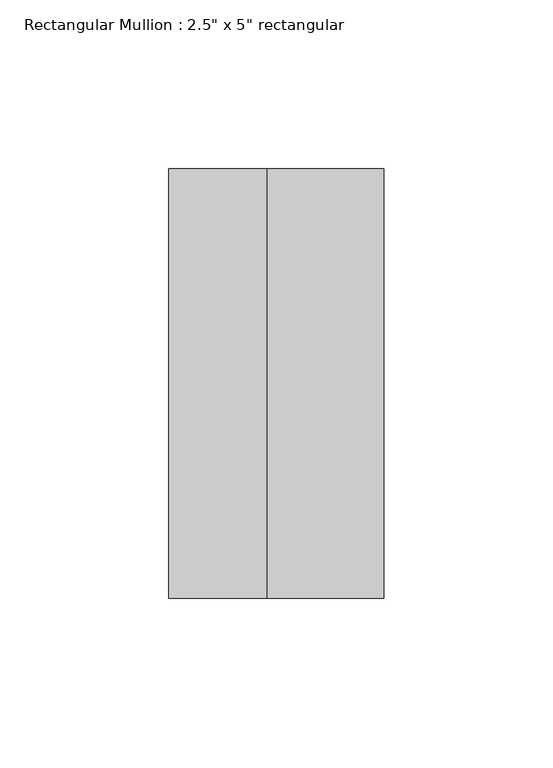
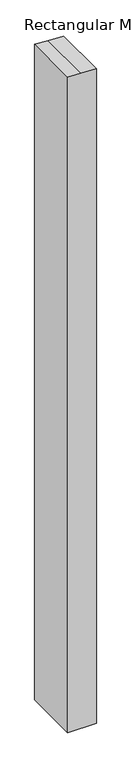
"""IFC4 building model written with IfcOpenShell, lengths in millimetres: member geometry."""

from ifc_helpers import new_model, si_unit, frame, origin, place, context, project, spatial, polyline, outline, extrude, source, transform, mapped, element, save


def member_6a7d5f62(model_context):
    return source(origin(), model_context, "Body", "SweptSolid", [
        extrude(outline(polyline([(-64.8775557, 31.75), (-63.4449853, -2.6426951), (-62.232569, -31.75), (-1600.7940789, -31.75), (-1600.7940789, 31.75), (-64.8775557, 31.75)])), frame((0.0, -63.5, 0.0), z_axis=(0.0, 1.0, 0.0), x_axis=(0.0, 0.0, 1.0)), (0.0, 0.0, 1.0), 127.0),
    ])


if __name__ == "__main__":
    model = new_model("IFC4")
    model_context = context("Model", 3, world=origin())
    ifc_project = project(units=[si_unit("LENGTHUNIT", "METRE", prefix="MILLI")], contexts=[model_context])
    site = spatial("IfcSite", under=ifc_project)
    building = spatial("IfcBuilding", under=site)
    placement = place(None, origin())
    member_shape = member_6a7d5f62(model_context)
    element("IfcMember", 1, ObjectType="Rectangular Mullion : 2.5\" x 5\" rectangular", at=placement, inside=building, context=model_context, shape_type="MappedRepresentation", body=[
        mapped(member_shape, transform((0.0, 0.0, 0.0), x_axis=(1.0, 0.0, 0.0), y_axis=(0.0, 1.0, 0.0), z_axis=(0.0, 0.0, 1.0))),
    ])
    save(model, "model.ifc")
